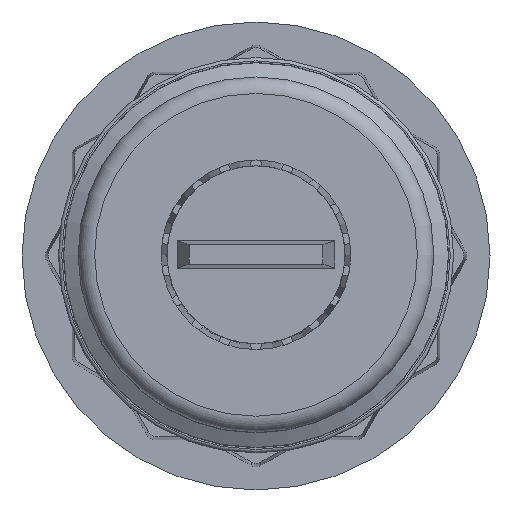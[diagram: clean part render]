
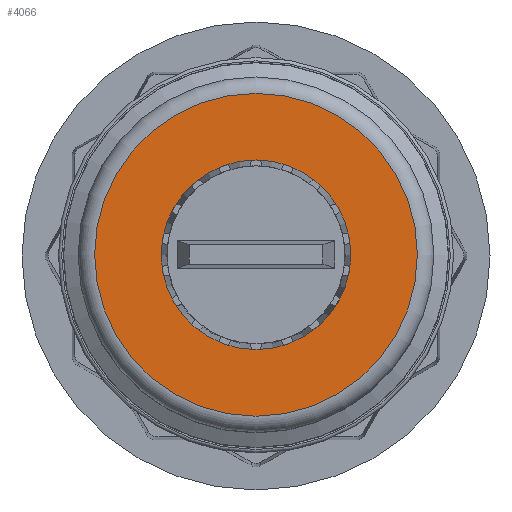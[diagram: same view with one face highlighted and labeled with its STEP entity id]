
A CAD part, top view. The second image highlights one B-rep face of the part: STEP entity #4066.
In plain terms, the highlighted planar face has unit normal (0, 0, 1).
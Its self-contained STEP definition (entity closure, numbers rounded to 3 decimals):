
#380 = DIRECTION ( 'NONE',  ( 0., 0., -1. ) ) ;
#433 = DIRECTION ( 'NONE',  ( 1., 0., 0. ) ) ;
#686 = VERTEX_POINT ( 'NONE', #6485 ) ;
#911 = DIRECTION ( 'NONE',  ( -1., 0., 0. ) ) ;
#1024 = CARTESIAN_POINT ( 'NONE',  ( -4.9, 0., 24. ) ) ;
#1224 = CIRCLE ( 'NONE', #5097, 2.879 ) ;
#2479 = PLANE ( 'NONE',  #3632 ) ;
#2602 = CARTESIAN_POINT ( 'NONE',  ( 0., 0., 24. ) ) ;
#2679 = ORIENTED_EDGE ( 'NONE', *, *, #5735, .F. ) ;
#2826 = ORIENTED_EDGE ( 'NONE', *, *, #5971, .T. ) ;
#3000 = EDGE_LOOP ( 'NONE', ( #2679 ) ) ;
#3632 = AXIS2_PLACEMENT_3D ( 'NONE', #6372, #380, #911 ) ;
#4066 = ADVANCED_FACE ( 'NONE', ( #5399, #4180 ), #2479, .F. ) ;
#4180 = FACE_BOUND ( 'NONE', #3000, .T. ) ;
#4483 = CIRCLE ( 'NONE', #4549, 4.9 ) ;
#4549 = AXIS2_PLACEMENT_3D ( 'NONE', #6383, #6878, #5294 ) ;
#4816 = DIRECTION ( 'NONE',  ( 0., 0., 1. ) ) ;
#5097 = AXIS2_PLACEMENT_3D ( 'NONE', #2602, #4816, #433 ) ;
#5294 = DIRECTION ( 'NONE',  ( -1., 0., 0. ) ) ;
#5399 = FACE_OUTER_BOUND ( 'NONE', #5847, .T. ) ;
#5735 = EDGE_CURVE ( 'NONE', #686, #686, #1224, .T. ) ;
#5847 = EDGE_LOOP ( 'NONE', ( #2826 ) ) ;
#5971 = EDGE_CURVE ( 'NONE', #6941, #6941, #4483, .T. ) ;
#6372 = CARTESIAN_POINT ( 'NONE',  ( 0., 5.4, 24. ) ) ;
#6383 = CARTESIAN_POINT ( 'NONE',  ( 0., 0., 24. ) ) ;
#6485 = CARTESIAN_POINT ( 'NONE',  ( 2.879, 0., 24. ) ) ;
#6878 = DIRECTION ( 'NONE',  ( 0., 0., 1. ) ) ;
#6941 = VERTEX_POINT ( 'NONE', #1024 ) ;
